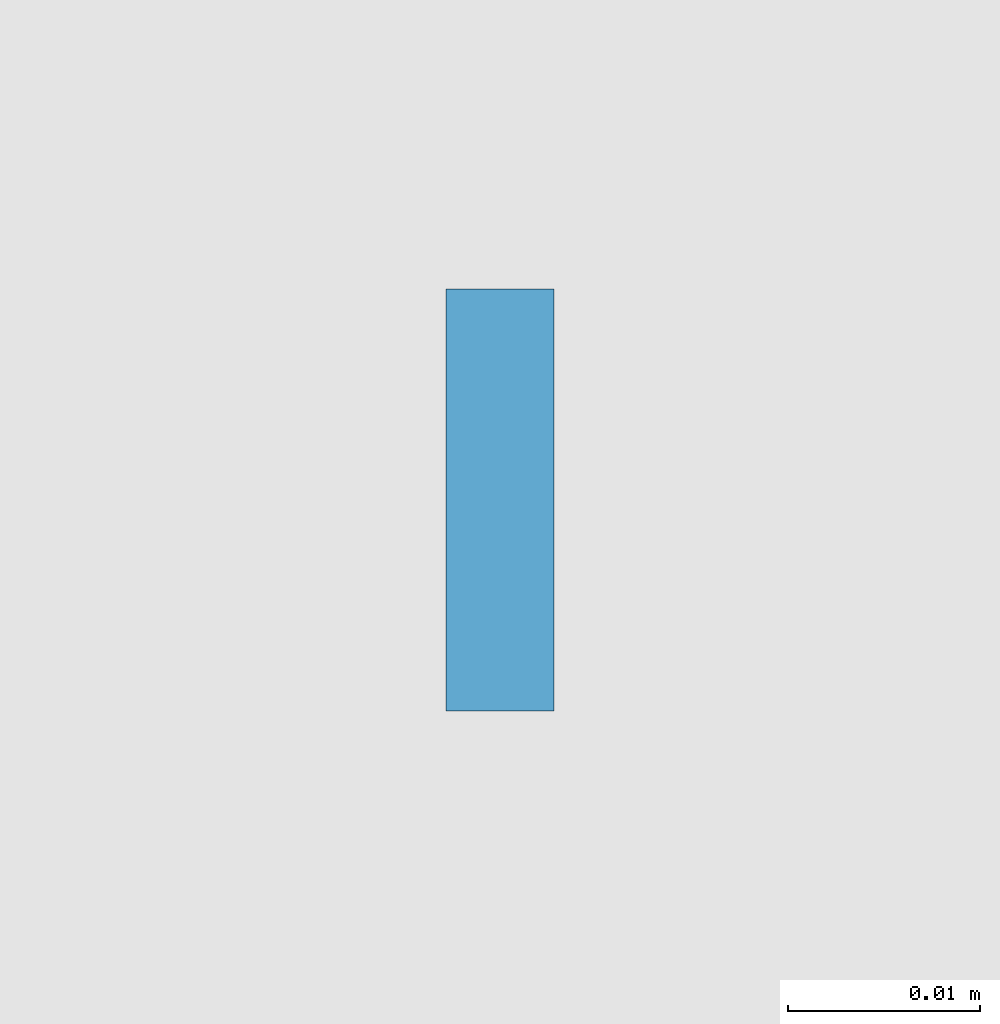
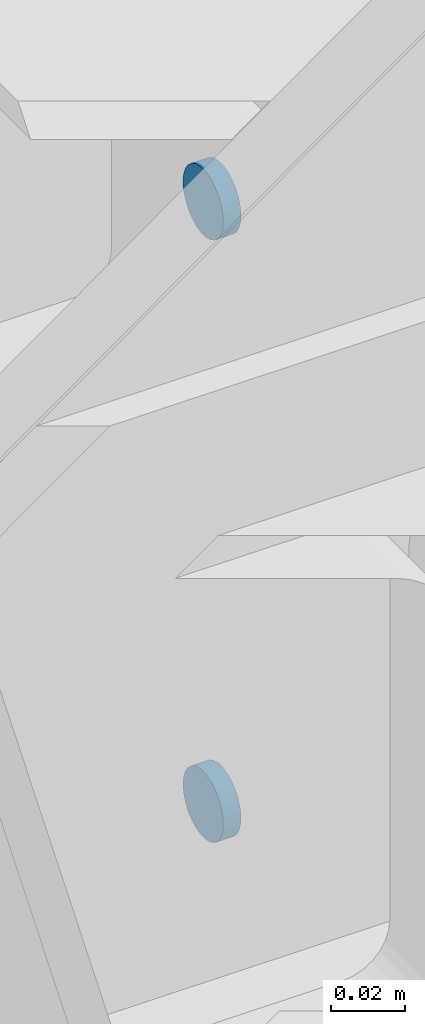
# One storey, part 108 of 123: 2 mechanical fasteners, 1 element without a shape of its own.
"""IFC2X3 building model written with IfcOpenShell, lengths in millimetres."""

from ifc_helpers import new_model, si_unit, frame, origin_with_axes, origin_2d_with_axis, place, context, subcontext, project, spatial, circle, extrude, source, transform, mapped, material, type_object, element, aggregate, save


model = new_model("IFC2X3")

# Units and contexts
model_context = context("Model", 3, precision=1e-05, world=origin_with_axes())
body_context = subcontext(model_context, "Body", "Model", "MODEL_VIEW")
ifc_project = project(units=[si_unit("LENGTHUNIT", "METRE", prefix="MILLI"), si_unit("AREAUNIT", "SQUARE_METRE"), si_unit("VOLUMEUNIT", "CUBIC_METRE"), si_unit("MASSUNIT", "GRAM", prefix="KILO"), si_unit("TIMEUNIT", "SECOND"), si_unit("PLANEANGLEUNIT", "RADIAN"), si_unit("SOLIDANGLEUNIT", "STERADIAN"), si_unit("THERMODYNAMICTEMPERATUREUNIT", "DEGREE_CELSIUS"), si_unit("LUMINOUSINTENSITYUNIT", "LUMEN")], contexts=[model_context])

# Site, building, storey
site_placement = place(None, origin_with_axes())
site = spatial("IfcSite", under=ifc_project, at=site_placement, Name="Undefined", CompositionType="ELEMENT")
building_placement = place(site_placement, origin_with_axes())
building = spatial("IfcBuilding", under=site, at=building_placement, Name="Undefined", CompositionType="ELEMENT")
storey_placement = place(building_placement, origin_with_axes())
storey = spatial("IfcBuildingStorey", under=building, at=storey_placement, Name="Undefined", CompositionType="ELEMENT", Elevation=0.0)

# Assembly, mechanical fasteners
assembly_placement = place(storey_placement, origin_with_axes())
assembly = element("IfcElementAssembly", 1, at=assembly_placement, inside=storey, Name="Steel Assembly", AssemblyPlace="NOTDEFINED", PredefinedType="RIGID_FRAME")
ifc_material = material(Name="6.8")
discrete_accessory_type = type_object("IfcDiscreteAccessoryType", Name="Bolt assembly")
shared_shape = source(origin_with_axes(), body_context, "Body", "SweptSolid", [
    extrude(circle(Radius=11.0, at=origin_2d_with_axis()), frame((0.0, -2.75000000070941, 0.0), z_axis=(0.0, 1.0, 0.0), x_axis=(1.0, 0.0, 0.0)), (0.0, 0.0, 1.0), 5.6),
])
mechanical_fastener_1_placement = place(assembly_placement, frame((23470.0000000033, 15451.99999998, 7079.99830350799), z_axis=(0.0, 0.0, 1.0), x_axis=(0.0, -1.0, 0.0)))
mechanical_fastener_1 = element("IfcMechanicalFastener", 2, at=mechanical_fastener_1_placement, type_object=discrete_accessory_type, material=ifc_material, Name="Bolt assembly", NominalDiameter=20.0, NominalLength=5.5, context=body_context, shape_type="MappedRepresentation", body=[
    mapped(shared_shape, transform((0.0, 0.0, 0.0))),
])
mechanical_fastener_2_placement = place(assembly_placement, frame((23470.0000000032, 15451.9999999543, 7279.99830350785), z_axis=(0.0, 0.0, 1.0), x_axis=(0.0, -1.0, 0.0)))
mechanical_fastener_2 = element("IfcMechanicalFastener", 3, at=mechanical_fastener_2_placement, type_object=discrete_accessory_type, material=ifc_material, Name="Bolt assembly", NominalDiameter=20.0, NominalLength=5.5, context=body_context, shape_type="MappedRepresentation", body=[
    mapped(shared_shape, transform((0.0, 0.0, 0.0))),
])
aggregate(assembly, [mechanical_fastener_1, mechanical_fastener_2])

save(model, "model.ifc")
